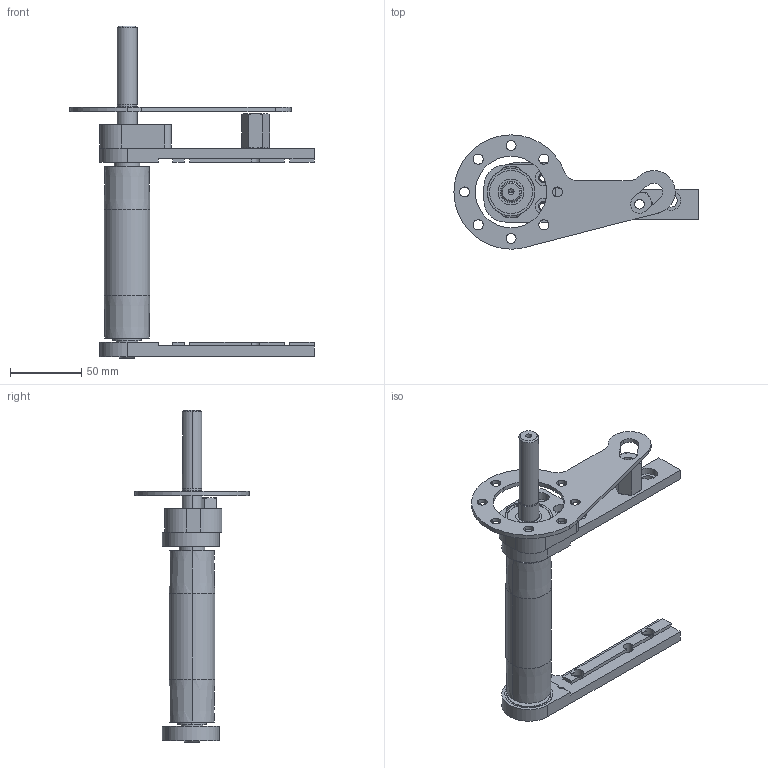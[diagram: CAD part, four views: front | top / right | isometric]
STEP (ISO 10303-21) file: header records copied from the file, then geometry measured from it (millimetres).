
FILE_DESCRIPTION (( 'STEP AP203' ), '1' );
FILE_NAME ('084.030.KD.30.100.STEP', '2019-07-29T09:43:31', ( '' ), ( '' ), 'SwSTEP 2.0', 'SolidWorks 2018', '' );
FILE_SCHEMA (( 'CONFIG_CONTROL_DESIGN' ));
Length unit declared in the file: millimetre
Products named in the file (11): 084.807.005; 084.801.027 sx; 084.801.027 dx; 084.801.046; 084.030.101_TUBO 32x3 L=150; CUSCINETTI CB_CB 201; 084.801.025; 084.030.KD.30.100; 084.802.027; 084.801.047; CUSCINETTI CB_CB 202
Assembly tree (10 placements, depth 2):
  084.030.KD.30.100
    084.801.046
    084.801.047
    084.030.101_TUBO 32x3 L=150
    084.802.027
    084.807.005
    084.801.027 dx
    084.801.027 sx
    084.801.025
    CUSCINETTI CB_CB 202
    CUSCINETTI CB_CB 201
Bounding box: 171 x 80 x 232.5 mm (x, y, z)
Volume: 166514.1 mm3; surface area: 99348.2 mm2
Topology: 10 solids, 10 shells, 325 faces, 856 edges, 557 vertices
Faces by surface type: cylinder 158, plane 123, cone 28, sphere 12, bspline 4
Entity records: 11665 total; most frequent: CARTESIAN_POINT 2213, DIRECTION 1860, ORIENTED_EDGE 1656, EDGE_CURVE 828, AXIS2_PLACEMENT_3D 748, VERTEX_POINT 543, CIRCLE 414, EDGE_LOOP 405
